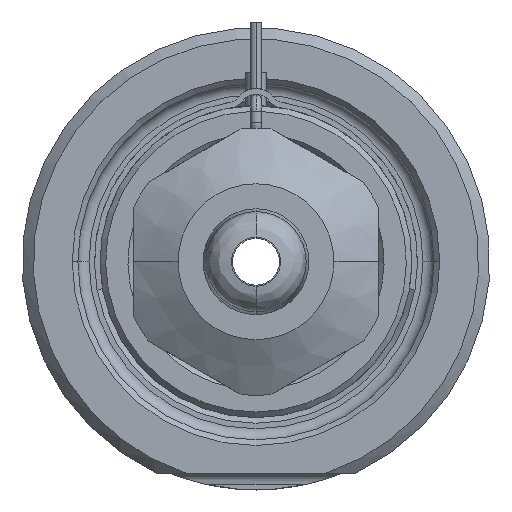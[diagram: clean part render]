
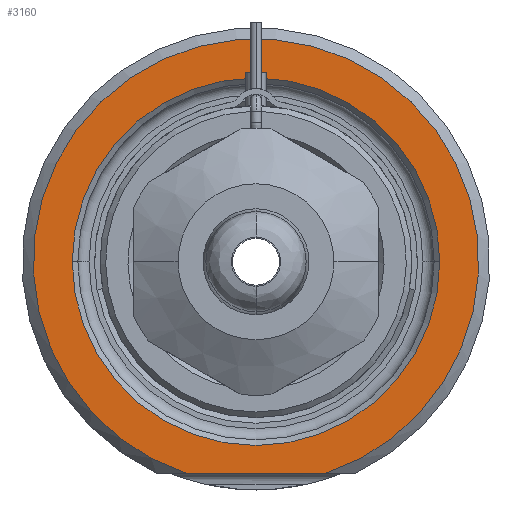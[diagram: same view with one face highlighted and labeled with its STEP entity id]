
A CAD part, front view. The second image highlights one B-rep face of the part: STEP entity #3160.
In plain terms, the highlighted planar face has unit normal (0, -1, 0).
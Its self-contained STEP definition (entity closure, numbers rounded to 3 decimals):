
#1=DIRECTION('',(1.,0.,0.));
#2=VECTOR('',#1,12.49);
#3=CARTESIAN_POINT('',(-6.245,0.,-19.));
#4=LINE('',#3,#2);
#5=CARTESIAN_POINT('',(0.,0.,0.));
#6=DIRECTION('',(0.,1.,0.));
#7=DIRECTION('',(-1.,0.,0.));
#8=AXIS2_PLACEMENT_3D('',#5,#6,#7);
#10=CARTESIAN_POINT('',(0.,0.,0.));
#11=DIRECTION('',(0.,1.,0.));
#12=DIRECTION('',(1.,0.,0.));
#13=AXIS2_PLACEMENT_3D('',#10,#11,#12);
#119=CARTESIAN_POINT('',(0.,0.,0.));
#120=DIRECTION('',(0.,-1.,0.));
#121=DIRECTION('',(0.312,0.,-0.95));
#122=AXIS2_PLACEMENT_3D('',#119,#120,#121);
#2635=CARTESIAN_POINT('',(-16.5,0.,0.));
#2636=CARTESIAN_POINT('',(16.5,0.,0.));
#2637=VERTEX_POINT('',#2635);
#2638=VERTEX_POINT('',#2636);
#2675=CARTESIAN_POINT('',(-6.245,0.,-19.));
#2676=CARTESIAN_POINT('',(6.245,0.,-19.));
#2677=VERTEX_POINT('',#2675);
#2678=VERTEX_POINT('',#2676);
#3143=CARTESIAN_POINT('',(0.,0.,0.));
#3144=DIRECTION('',(0.,-1.,0.));
#3145=DIRECTION('',(1.,0.,0.));
#3146=AXIS2_PLACEMENT_3D('',#3143,#3144,#3145);
#3147=PLANE('',#3146);
#3149=ORIENTED_EDGE('',*,*,#3148,.F.);
#3151=ORIENTED_EDGE('',*,*,#3150,.F.);
#3152=EDGE_LOOP('',(#3149,#3151));
#3153=FACE_OUTER_BOUND('',#3152,.F.);
#3155=ORIENTED_EDGE('',*,*,#3154,.F.);
#3157=ORIENTED_EDGE('',*,*,#3156,.F.);
#3158=EDGE_LOOP('',(#3155,#3157));
#3159=FACE_BOUND('',#3158,.F.);
#3160=ADVANCED_FACE('',(#3153,#3159),#3147,.T.);
#9=CIRCLE('',#8,16.5);
#14=CIRCLE('',#13,16.5);
#123=CIRCLE('',#122,20.);
#3148=EDGE_CURVE('',#2677,#2678,#4,.T.);
#3150=EDGE_CURVE('',#2678,#2677,#123,.T.);
#3154=EDGE_CURVE('',#2637,#2638,#9,.T.);
#3156=EDGE_CURVE('',#2638,#2637,#14,.T.);
